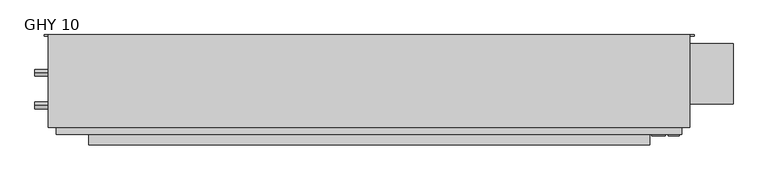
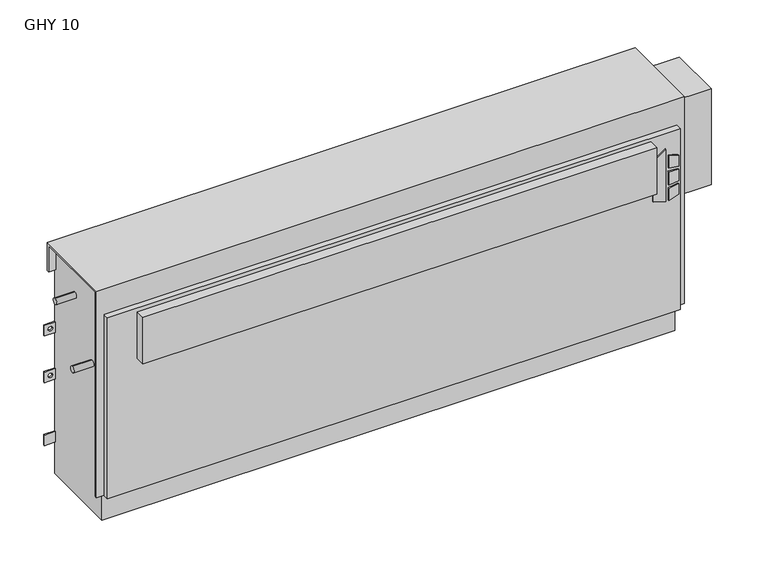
"""IFC4 building model written with IfcOpenShell, lengths in millimetres: proxy geometry, Vertical_Fan_Coil_Unit_-_GHY_-_IEC_-_2-Pipe_FS-FR_LH_2022 : GHY 10."""

import ifcopenshell
import ifcopenshell.guid

model = None  # the IFC model being written
_history = None  # IfcOwnerHistory: only IFC2X3 demands one
_inside = {}  # id of a spatial element -> (the spatial element, [elements in it])
_under = {}  # id of a project, library or spatial element -> (it, [spatial elements below it])
_declared = {}  # id of a project -> (the project, [libraries it declares])
_typed = {}  # id of a type object -> (the type object, [elements of that type])
_made_of = {}  # id of a material, layer set ... -> (it, [elements and type objects made of it])


def new_model(schema):
    """Start an empty IFC model of exactly this schema.

    Asked for "IFC4X3", IfcOpenShell would pick the latest addendum, in which some entities
    have other attributes; the version numbers below select the first issue.
    IFC2X3 requires an IfcOwnerHistory on every rooted entity: one is made here for all.
    """
    global model, _history
    if schema == "IFC4X3":
        model = ifcopenshell.file(schema_version=(4, 3, 0, 0))
    else:
        model = ifcopenshell.file(schema=schema)
    _inside.clear()
    _under.clear()
    _declared.clear()
    _typed.clear()
    _made_of.clear()
    _history = None
    if model.schema == "IFC2X3":
        org = make("IfcOrganization", Name="unknown")
        user = make(
            "IfcPersonAndOrganization",
            ThePerson=make("IfcPerson", FamilyName="unknown"),
            TheOrganization=org,
        )
        app = make(
            "IfcApplication",
            ApplicationDeveloper=org,
            Version="unknown",
            ApplicationFullName="unknown",
            ApplicationIdentifier="unknown",
        )
        _history = make(
            "IfcOwnerHistory",
            OwningUser=user,
            OwningApplication=app,
            ChangeAction="ADDED",
            CreationDate=0,
        )
    return model


def make(cls, **values):
    """One entity of the class cls with the attributes given. An attribute that is None is left unset."""
    return model.create_entity(
        cls, **{name: value for name, value in values.items() if value is not None}
    )


def rooted(cls, **values):
    """An entity with a GlobalId (a new one), such as an element, a storey or a relation."""
    return make(cls, GlobalId=ifcopenshell.guid.new(), OwnerHistory=_history, **values)


def si_unit(unit_type, name, prefix=None):
    """IfcSIUnit, for example si_unit("LENGTHUNIT", "METRE", prefix="MILLI")."""
    return make("IfcSIUnit", UnitType=unit_type, Prefix=prefix, Name=name)


def assignment(units):
    """IfcUnitAssignment: the units of a project."""
    return None if units is None else make("IfcUnitAssignment", Units=units)


def point(xyz):
    """IfcCartesianPoint."""
    return None if xyz is None else make("IfcCartesianPoint", Coordinates=xyz)


def direction(xyz):
    """IfcDirection."""
    return None if xyz is None else make("IfcDirection", DirectionRatios=xyz)


def frame(location, z_axis=None, x_axis=None):
    """IfcAxis2Placement3D, a coordinate frame: its origin and axes. An axis left out is left unset."""
    return make(
        "IfcAxis2Placement3D",
        Location=point(location),
        Axis=direction(z_axis),
        RefDirection=direction(x_axis),
    )


def frame_2d(location, x_axis=None):
    """IfcAxis2Placement2D, a coordinate frame in the plane: its origin and x axis."""
    return make(
        "IfcAxis2Placement2D", Location=point(location), RefDirection=direction(x_axis)
    )


def origin():
    """The frame at (0, 0, 0) with its axes left unset."""
    return frame((0.0, 0.0, 0.0))


def place(relative_to, where):
    """IfcLocalPlacement: puts the frame where relative to a parent placement (None: the world)."""
    return make(
        "IfcLocalPlacement", PlacementRelTo=relative_to, RelativePlacement=where
    )


def context(
    kind, dimensions, precision=None, world=None, true_north=None, identifier=None
):
    """IfcGeometricRepresentationContext, for example the 3D "Model" context."""
    return make(
        "IfcGeometricRepresentationContext",
        ContextIdentifier=identifier,
        ContextType=kind,
        CoordinateSpaceDimension=dimensions,
        Precision=precision,
        WorldCoordinateSystem=world,
        TrueNorth=true_north,
    )


def project(units=None, contexts=None):
    """IfcProject with its units and contexts."""
    return rooted(
        "IfcProject",
        Name="project",
        RepresentationContexts=contexts,
        UnitsInContext=assignment(units),
    )


def spatial(cls, under=None, at=None, **own):
    """A site, building, storey or space (cls), placed at a placement, below another one or the project."""
    s = rooted(cls, ObjectPlacement=at, **own)
    if under is not None:
        _under.setdefault(under.id(), (under, []))[1].append(s)
    return s


def polyline(points):
    """IfcPolyline through the points."""
    return make("IfcPolyline", Points=[point(p) for p in points])


def circle_curve(where, radius):
    """IfcCircle in the frame where."""
    return make("IfcCircle", Position=where, Radius=radius)


def trimmed(basis, trim1, trim2, sense, master):
    """IfcTrimmedCurve: the piece of a basis curve between two trims."""
    return make(
        "IfcTrimmedCurve",
        BasisCurve=basis,
        Trim1=trim1,
        Trim2=trim2,
        SenseAgreement=sense,
        MasterRepresentation=master,
    )


def segment(curve, same_sense, transition):
    """IfcCompositeCurveSegment."""
    return make(
        "IfcCompositeCurveSegment",
        Transition=transition,
        SameSense=same_sense,
        ParentCurve=curve,
    )


def composite_curve(segments, self_intersect=None):
    """IfcCompositeCurve: segments joined end to end."""
    return make("IfcCompositeCurve", Segments=segments, SelfIntersect=self_intersect)


def outline(outer, holes=None, kind="AREA"):
    """IfcArbitraryClosedProfileDef: a profile drawn as a closed curve; with holes, ...WithVoids."""
    if holes is None:
        return make("IfcArbitraryClosedProfileDef", ProfileType=kind, OuterCurve=outer)
    return make(
        "IfcArbitraryProfileDefWithVoids",
        ProfileType=kind,
        OuterCurve=outer,
        InnerCurves=holes,
    )


def extrude(swept, where, along, depth):
    """IfcExtrudedAreaSolid: the profile swept, set in the frame where, extruded along a direction by depth."""
    return make(
        "IfcExtrudedAreaSolid",
        SweptArea=swept,
        Position=where,
        ExtrudedDirection=direction(along),
        Depth=depth,
    )


def shape(context_of_items, identifier, shape_type, items):
    """IfcShapeRepresentation: the items that make up one representation, for example the "Body"."""
    return make(
        "IfcShapeRepresentation",
        ContextOfItems=context_of_items,
        RepresentationIdentifier=identifier,
        RepresentationType=shape_type,
        Items=items,
    )


def source(mapping_origin, context_of_items, identifier, shape_type, items):
    """IfcRepresentationMap: a shape defined once, which mapped items show again and again."""
    return make(
        "IfcRepresentationMap",
        MappingOrigin=mapping_origin,
        MappedRepresentation=shape(context_of_items, identifier, shape_type, items),
    )


def transform(
    local_origin,
    x_axis=None,
    y_axis=None,
    z_axis=None,
    scale=None,
    scale2=None,
    scale3=None,
    uniform=True,
):
    """IfcCartesianTransformationOperator3D, or its non-uniform kind. x_axis, y_axis, z_axis: its Axis1, 2, 3."""
    if uniform:
        return make(
            "IfcCartesianTransformationOperator3D",
            Axis1=direction(x_axis),
            Axis2=direction(y_axis),
            LocalOrigin=point(local_origin),
            Scale=scale,
            Axis3=direction(z_axis),
        )
    return make(
        "IfcCartesianTransformationOperator3DnonUniform",
        Axis1=direction(x_axis),
        Axis2=direction(y_axis),
        LocalOrigin=point(local_origin),
        Scale=scale,
        Axis3=direction(z_axis),
        Scale2=scale2,
        Scale3=scale3,
    )


def mapped(mapping_source, mapping_target):
    """IfcMappedItem: shows the shape of a source again, moved by a transform."""
    return make(
        "IfcMappedItem", MappingSource=mapping_source, MappingTarget=mapping_target
    )


def made_of(thing, what):
    """Note that an element or type object is made of a material, layer set ...; save() writes the relation."""
    if what is not None:
        _made_of.setdefault(what.id(), (what, []))[1].append(thing)
    return thing


def element(
    cls,
    number,
    at=None,
    inside=None,
    cuts=None,
    type_object=None,
    material=None,
    context=None,
    identifier="Body",
    shape_type=None,
    held_by="IfcProductDefinitionShape",
    body=None,
    shapes=None,
    **own,
):
    """One element of the class cls, such as IfcWall. Its Tag is "e" and its number.

    at: its placement. inside: the storey or other place that contains it. cuts: it is an
    opening in that element (IfcRelVoidsElement). A single representation is given by context,
    identifier, shape_type and body (its items); several are given by shapes. held_by: the class
    of the entity that holds the representations. save() writes the other relations.
    """
    e = rooted(cls, Tag="e%d" % number, ObjectPlacement=at, **own)
    if body is not None:
        shapes = [shape(context, identifier, shape_type, body)]
    if shapes is not None:
        e.Representation = make(held_by, Representations=shapes)
    if inside is not None:
        _inside.setdefault(inside.id(), (inside, []))[1].append(e)
    if cuts is not None:
        rooted(
            "IfcRelVoidsElement", RelatingBuildingElement=cuts, RelatedOpeningElement=e
        )
    if type_object is not None:
        _typed.setdefault(type_object.id(), (type_object, []))[1].append(e)
    return made_of(e, material)


def aggregate(whole, parts):
    """IfcRelAggregates: a whole, such as a stair, and the parts it consists of."""
    return rooted("IfcRelAggregates", RelatingObject=whole, RelatedObjects=parts)


def save(model, path):
    """Write the relations noted so far, then the file.

    IfcRelAggregates (storeys below a building ...), IfcRelContainedInSpatialStructure (elements
    in a storey), IfcRelDefinesByType, IfcRelAssociatesMaterial and IfcRelDeclares: one each for
    every whole, place, type object, material and project.
    """
    for whole, parts in _under.values():
        aggregate(whole, parts)
    for where, things in _inside.values():
        rooted(
            "IfcRelContainedInSpatialStructure",
            RelatedElements=things,
            RelatingStructure=where,
        )
    for kind, things in _typed.values():
        rooted("IfcRelDefinesByType", RelatedObjects=things, RelatingType=kind)
    for what, things in _made_of.values():
        rooted("IfcRelAssociatesMaterial", RelatedObjects=things, RelatingMaterial=what)
    for by, libraries in _declared.values():
        rooted("IfcRelDeclares", RelatingContext=by, RelatedDefinitions=libraries)
    model.write(path)


def plane_surface(at):
    """IfcPlane: the flat surface through the origin of the frame at, square to its z axis."""
    return make("IfcPlane", Position=at)


def revolved_surface(curve, axis_point, axis_direction):
    """IfcSurfaceOfRevolution: the curve turned about the line through axis_point along axis_direction."""
    return make(
        "IfcSurfaceOfRevolution",
        SweptCurve=make("IfcArbitraryOpenProfileDef", ProfileType="CURVE", Curve=curve),
        AxisPosition=make("IfcAxis1Placement", Location=point(axis_point), Axis=direction(axis_direction)),
    )


def advanced_brep(points, edges, surfaces, faces):
    """IfcAdvancedBrep: a solid bounded by faces that lie on surfaces and meet in shared edges.

    An edge is (start, end): straight between two places in points (the first is 0);
    or (start, end, curve); or (start, end, curve, False) where it runs against its curve.
    A face is (place in surfaces, loops), or (place, loops, False) where it looks against
    its surface's normal. A loop lists edges by number (the first is 1), with a minus sign
    where the edge is run from its end to its start. The first loop is the outer one.
    """
    corners = [point(p) for p in points]
    vertices = [make("IfcVertexPoint", VertexGeometry=c) for c in corners]
    made = []
    for start, end, *more in edges:
        made.append(
            make(
                "IfcEdgeCurve",
                EdgeStart=vertices[start],
                EdgeEnd=vertices[end],
                EdgeGeometry=more[0] if more else make("IfcPolyline", Points=[corners[start], corners[end]]),
                SameSense=more[1] if len(more) > 1 else True,
            )
        )
    hull = []
    for where, loops, *sense in faces:
        bounds = []
        for j, loop in enumerate(loops):
            ring = [make("IfcOrientedEdge", EdgeElement=made[abs(k) - 1], Orientation=k > 0) for k in loop]
            bounds.append(
                make(
                    "IfcFaceOuterBound" if j == 0 else "IfcFaceBound",
                    Bound=make("IfcEdgeLoop", EdgeList=ring),
                    Orientation=True,
                )
            )
        hull.append(make("IfcAdvancedFace", Bounds=bounds, FaceSurface=surfaces[where], SameSense=sense[0] if sense else True))
    return make("IfcAdvancedBrep", Outer=make("IfcClosedShell", CfsFaces=hull))


def ghy_10_f1c1fad6(model_context):
    return source(origin(), model_context, "Body", "SolidModel", [
        extrude(outline(polyline([(391.6086829, 817.6368862), (381.6606126, 849.8102728), (523.831537, 849.8102728), (500.8095309, 817.6368862), (391.6086829, 817.6368862)])), frame((0.0, 6.35, 0.0), z_axis=(0.0, 1.0, 0.0), x_axis=(0.0, 0.0, 1.0)), (0.0, 0.0, 1.0), 3.175),
        extrude(outline(polyline([(470.6079683, 856.5686058), (467.4055757, 882.65), (496.6344168, 882.65), (504.6988318, 856.5686058), (470.6079683, 856.5686058)])), frame((0.0, 6.35, 0.0), z_axis=(0.0, 1.0, 0.0), x_axis=(0.0, 0.0, 1.0)), (0.0, 0.0, 1.0), 3.175),
        extrude(outline(polyline([(418.7444414, 882.65), (415.0789404, 856.5686058), (381.6606126, 856.5686058), (390.2948498, 882.65), (418.7444414, 882.65)])), frame((0.0, 6.35, 0.0), z_axis=(0.0, 1.0, 0.0), x_axis=(0.0, 0.0, 1.0)), (0.0, 0.0, 1.0), 3.175),
        extrude(outline(polyline([(458.0596028, 882.65), (460.3414292, 856.5686058), (424.4038806, 856.5686058), (427.1451456, 882.65), (458.0596028, 882.65)])), frame((0.0, 6.35, 0.0), z_axis=(0.0, 1.0, 0.0), x_axis=(0.0, 0.0, 1.0)), (0.0, 0.0, 1.0), 3.175),
        extrude(outline(polyline([(812.8, -15.875), (-508.0, -15.875), (-508.0, 9.525), (812.8, 9.525), (812.8, -15.875)])), frame((0.0, 0.0, 428.625), z_axis=(0.0, 0.0, 1.0), x_axis=(1.0, 0.0, 0.0)), (0.0, 0.0, 1.0), 127.0),
        extrude(outline(composite_curve([segment(trimmed(circle_curve(frame_2d((77.597, 401.574)), 7.9375), [point((77.597, 409.5115))], [point((77.597, 393.6365))], False, "CARTESIAN"), True, "CONTINUOUS"), segment(trimmed(circle_curve(frame_2d((77.597, 401.574)), 7.9375), [point((77.597, 393.6365))], [point((77.597, 409.5115))], False, "CARTESIAN"), True, "CONTINUOUS")], self_intersect=False)), frame((-635.0, 0.0, 0.0), z_axis=(1.0, 0.0, 0.0), x_axis=(0.0, 1.0, 0.0)), (0.0, 0.0, 1.0), 50.8),
        extrude(outline(composite_curve([segment(trimmed(circle_curve(frame_2d((154.559, 540.512)), 7.9375), [point((154.559, 548.4495))], [point((154.559, 532.5745))], False, "CARTESIAN"), True, "CONTINUOUS"), segment(trimmed(circle_curve(frame_2d((154.559, 540.512)), 7.9375), [point((154.559, 532.5745))], [point((154.559, 548.4495))], False, "CARTESIAN"), True, "CONTINUOUS")], self_intersect=False)), frame((-635.0, 0.0, 0.0), z_axis=(1.0, 0.0, 0.0), x_axis=(0.0, 1.0, 0.0)), (0.0, 0.0, 1.0), 50.8),
        extrude(outline(polyline([(1009.65, 223.266), (1009.65, 81.534), (889.0, 81.534), (889.0, 223.266), (1009.65, 223.266)])), frame((0.0, 0.0, 327.025), z_axis=(0.0, 0.0, 1.0), x_axis=(1.0, 0.0, 0.0)), (0.0, 0.0, 1.0), 260.35),
        advanced_brep(
        [(908.05, 244.475, 635.0), (-603.25, 244.475, 635.0), (-603.25, 25.4, 635.0), (908.05, 25.4, 635.0), (-584.2, 244.475, 0.0), (889.0, 244.475, 0.0), (889.0, 34.925, 0.0), (-584.2, 34.925, 0.0), (908.05, 244.475, 558.8), (889.0, 244.475, 558.8), (889.0, 244.475, 414.3375), (917.575, 244.475, 414.3375), (917.575, 244.475, 385.7625), (889.0, 244.475, 385.7625), (889.0, 244.475, 287.3375), (917.575, 244.475, 287.3375), (917.575, 244.475, 258.7625), (889.0, 244.475, 258.7625), (889.0, 244.475, 141.2875), (917.575, 244.475, 141.2875), (917.575, 244.475, 112.7125), (889.0, 244.475, 112.7125), (-584.2, 244.475, 87.3125), (-612.775, 244.475, 87.3125), (-612.775, 244.475, 115.8875), (-584.2, 244.475, 115.8875), (-584.2, 244.475, 258.7625), (-612.775, 244.475, 258.7625), (-612.775, 244.475, 287.3375), (-584.2, 244.475, 287.3375), (-584.2, 244.475, 385.7625), (-612.775, 244.475, 385.7625), (-612.775, 244.475, 414.3375), (-584.2, 244.475, 414.3375), (-584.2, 244.475, 558.8), (-603.25, 244.475, 558.8), (907.2626, 244.475, 127.0), (896.1374, 244.475, 127.0), (907.2626, 244.475, 273.05), (896.1374, 244.475, 273.05), (-591.3374, 244.475, 273.05), (-602.4626, 244.475, 273.05), (907.2626, 244.475, 400.05), (896.1374, 244.475, 400.05), (-591.3374, 244.475, 400.05), (-602.4626, 244.475, 400.05), (-603.25, 238.125, 558.8), (-603.25, 238.125, 628.65), (-603.25, 31.75, 628.65), (-603.25, 31.75, 73.025), (-603.25, 25.4, 73.025), (889.0, 9.525, 565.15), (-584.2, 9.525, 565.15), (-584.2, 9.525, 73.025), (889.0, 9.525, 73.025), (908.05, 25.4, 73.025), (908.05, 31.75, 73.025), (908.05, 31.75, 628.65), (908.05, 238.125, 628.65), (908.05, 238.125, 558.8), (-584.2, 25.4, 73.025), (-584.2, 25.4, 565.15), (889.0, 25.4, 565.15), (889.0, 25.4, 73.025), (-584.2, 31.75, 73.025), (-584.2, 34.925, 73.025), (889.0, 34.925, 73.025), (889.0, 31.75, 73.025), (889.0, 241.3, 112.7125), (889.0, 241.3, 141.2875), (889.0, 241.3, 258.7625), (889.0, 241.3, 287.3375), (889.0, 241.3, 385.7625), (889.0, 241.3, 414.3375), (889.0, 238.125, 558.8), (889.0, 238.125, 628.65), (889.0, 31.75, 628.65), (-584.2, 31.75, 628.65), (-584.2, 238.125, 628.65), (-584.2, 238.125, 558.8), (-584.2, 241.3, 414.3375), (-584.2, 241.3, 385.7625), (-584.2, 241.3, 287.3375), (-584.2, 241.3, 258.7625), (-584.2, 241.3, 115.8875), (-584.2, 241.3, 87.3125), (917.575, 241.3, 112.7125), (917.575, 241.3, 141.2875), (896.1374, 241.3, 127.0), (907.2626, 241.3, 127.0), (917.575, 241.3, 258.7625), (917.575, 241.3, 287.3375), (896.1374, 241.3, 273.05), (907.2626, 241.3, 273.05), (917.575, 241.3, 385.7625), (917.575, 241.3, 414.3375), (896.1374, 241.3, 400.05), (907.2626, 241.3, 400.05), (-612.775, 241.3, 115.8875), (-612.775, 241.3, 87.3125), (-612.775, 241.3, 287.3375), (-612.775, 241.3, 258.7625), (-602.4626, 241.3, 273.05), (-591.3374, 241.3, 273.05), (-612.775, 241.3, 414.3375), (-612.775, 241.3, 385.7625), (-602.4626, 241.3, 400.05), (-591.3374, 241.3, 400.05)],
        [
            (0, 1),
            (1, 2),
            (2, 3),
            (3, 0),
            (4, 5),
            (5, 6),
            (6, 7),
            (7, 4),
            (0, 8),
            (8, 9),
            (9, 10),
            (10, 11),
            (11, 12),
            (12, 13),
            (13, 14),
            (14, 15),
            (15, 16),
            (16, 17),
            (17, 18),
            (18, 19),
            (19, 20),
            (20, 21),
            (21, 5),
            (4, 22),
            (22, 23),
            (23, 24),
            (24, 25),
            (25, 26),
            (26, 27),
            (27, 28),
            (28, 29),
            (29, 30),
            (30, 31),
            (31, 32),
            (32, 33),
            (33, 34),
            (34, 35),
            (35, 1),
            (36, 37, circle_curve(frame((901.7, 244.475, 127.0), z_axis=(0.0, -1.0, 0.0), x_axis=(-1.0, 0.0, 0.0)), 5.5626)),
            (37, 36, circle_curve(frame((901.7, 244.475, 127.0), z_axis=(0.0, -1.0, 0.0), x_axis=(-1.0, 0.0, 0.0)), 5.5626)),
            (38, 39, circle_curve(frame((901.7, 244.475, 273.05), z_axis=(0.0, -1.0, 0.0), x_axis=(-1.0, 0.0, 0.0)), 5.5626)),
            (39, 38, circle_curve(frame((901.7, 244.475, 273.05), z_axis=(0.0, -1.0, 0.0), x_axis=(-1.0, 0.0, 0.0)), 5.5626)),
            (40, 41, circle_curve(frame((-596.9, 244.475, 273.05), z_axis=(0.0, -1.0, 0.0), x_axis=(-1.0, 0.0, 0.0)), 5.5626)),
            (41, 40, circle_curve(frame((-596.9, 244.475, 273.05), z_axis=(0.0, -1.0, 0.0), x_axis=(-1.0, 0.0, 0.0)), 5.5626)),
            (42, 43, circle_curve(frame((901.7, 244.475, 400.05), z_axis=(0.0, -1.0, 0.0), x_axis=(-1.0, 0.0, 0.0)), 5.5626)),
            (43, 42, circle_curve(frame((901.7, 244.475, 400.05), z_axis=(0.0, -1.0, 0.0), x_axis=(-1.0, 0.0, 0.0)), 5.5626)),
            (44, 45, circle_curve(frame((-596.9, 244.475, 400.05), z_axis=(0.0, -1.0, 0.0), x_axis=(-1.0, 0.0, 0.0)), 5.5626)),
            (45, 44, circle_curve(frame((-596.9, 244.475, 400.05), z_axis=(0.0, -1.0, 0.0), x_axis=(-1.0, 0.0, 0.0)), 5.5626)),
            (35, 46),
            (46, 47),
            (47, 48),
            (48, 49),
            (49, 50),
            (50, 2),
            (51, 52),
            (52, 53),
            (53, 54),
            (54, 51),
            (3, 55),
            (55, 56),
            (56, 57),
            (57, 58),
            (58, 59),
            (59, 8),
            (50, 60),
            (60, 61),
            (61, 62),
            (62, 63),
            (63, 55),
            (51, 62),
            (61, 52),
            (53, 60),
            (49, 64),
            (64, 65),
            (65, 66),
            (66, 67),
            (67, 56),
            (63, 54),
            (6, 66),
            (65, 7),
            (21, 68),
            (68, 69),
            (69, 18),
            (17, 70),
            (70, 71),
            (71, 14),
            (13, 72),
            (72, 73),
            (73, 10),
            (9, 74),
            (74, 75),
            (75, 76),
            (76, 67),
            (64, 77),
            (77, 78),
            (78, 79),
            (79, 34),
            (33, 80),
            (80, 81),
            (81, 30),
            (29, 82),
            (82, 83),
            (83, 26),
            (25, 84),
            (84, 85),
            (85, 22),
            (74, 59),
            (58, 75),
            (76, 57),
            (48, 77),
            (79, 46),
            (78, 47),
            (68, 86),
            (86, 87),
            (87, 69),
            (88, 89, circle_curve(frame((901.7, 241.3, 127.0), z_axis=(0.0, 1.0, 0.0), x_axis=(-1.0, 0.0, 0.0)), 5.5626)),
            (89, 88, circle_curve(frame((901.7, 241.3, 127.0), z_axis=(0.0, 1.0, 0.0), x_axis=(-1.0, 0.0, 0.0)), 5.5626)),
            (90, 91),
            (91, 71),
            (70, 90),
            (92, 93, circle_curve(frame((901.7, 241.3, 273.05), z_axis=(0.0, 1.0, 0.0), x_axis=(-1.0, 0.0, 0.0)), 5.5626)),
            (93, 92, circle_curve(frame((901.7, 241.3, 273.05), z_axis=(0.0, 1.0, 0.0), x_axis=(-1.0, 0.0, 0.0)), 5.5626)),
            (94, 95),
            (95, 73),
            (72, 94),
            (96, 97, circle_curve(frame((901.7, 241.3, 400.05), z_axis=(0.0, 1.0, 0.0), x_axis=(-1.0, 0.0, 0.0)), 5.5626)),
            (97, 96, circle_curve(frame((901.7, 241.3, 400.05), z_axis=(0.0, 1.0, 0.0), x_axis=(-1.0, 0.0, 0.0)), 5.5626)),
            (98, 99),
            (99, 85),
            (84, 98),
            (82, 100),
            (100, 101),
            (101, 83),
            (102, 103, circle_curve(frame((-596.9, 241.3, 273.05), z_axis=(0.0, 1.0, 0.0), x_axis=(-1.0, 0.0, 0.0)), 5.5626)),
            (103, 102, circle_curve(frame((-596.9, 241.3, 273.05), z_axis=(0.0, 1.0, 0.0), x_axis=(-1.0, 0.0, 0.0)), 5.5626)),
            (104, 105),
            (105, 81),
            (80, 104),
            (106, 107, circle_curve(frame((-596.9, 241.3, 400.05), z_axis=(0.0, 1.0, 0.0), x_axis=(-1.0, 0.0, 0.0)), 5.5626)),
            (107, 106, circle_curve(frame((-596.9, 241.3, 400.05), z_axis=(0.0, 1.0, 0.0), x_axis=(-1.0, 0.0, 0.0)), 5.5626)),
            (87, 19),
            (86, 20),
            (16, 90),
            (91, 15),
            (12, 94),
            (95, 11),
            (24, 98),
            (99, 23),
            (101, 27),
            (100, 28),
            (32, 104),
            (105, 31),
            (88, 37),
            (36, 89),
            (92, 39),
            (38, 93),
            (102, 41),
            (40, 103),
            (96, 43),
            (42, 97),
            (106, 45),
            (44, 107),
        ],
        [
            plane_surface(frame((-603.25, 244.475, 635.0), z_axis=(0.0, 0.0, 1.0), x_axis=(-1.0, 0.0, 0.0))),
            plane_surface(frame((-603.25, 244.475, 0.0), z_axis=(0.0, 0.0, -1.0), x_axis=(1.0, 0.0, 0.0))),
            plane_surface(frame((908.05, 244.475, 635.0), z_axis=(0.0, 1.0, 0.0), x_axis=(0.0, 0.0, -1.0))),
            plane_surface(frame((-603.25, 244.475, 635.0), z_axis=(-1.0, 0.0, 0.0), x_axis=(0.0, 0.0, -1.0))),
            plane_surface(frame((-603.25, 9.525, 635.0), z_axis=(0.0, -1.0, 0.0), x_axis=(0.0, 0.0, -1.0))),
            plane_surface(frame((908.05, 9.525, 635.0), z_axis=(1.0, 0.0, 0.0), x_axis=(0.0, 0.0, -1.0))),
            plane_surface(frame((-1060.45, 25.4, 635.0), z_axis=(0.0, -1.0, 0.0), x_axis=(1.0, 0.0, 0.0))),
            plane_surface(frame((-1060.45, 25.4, 565.15), z_axis=(0.0, 0.0, 1.0), x_axis=(1.0, 0.0, 0.0))),
            plane_surface(frame((-603.25, 9.525, 73.025), z_axis=(0.0, 0.0, -1.0), x_axis=(1.0, 0.0, 0.0))),
            plane_surface(frame((-603.25, 34.925, 73.025), z_axis=(0.0, -1.0, 0.0), x_axis=(1.0, 0.0, 0.0))),
            plane_surface(frame((889.0, 25.4, 73.025), z_axis=(1.0, 0.0, 0.0), x_axis=(0.0, -1.0, 0.0))),
            plane_surface(frame((-584.2, 25.4, 565.15), z_axis=(-1.0, 0.0, 0.0), x_axis=(0.0, -1.0, 0.0))),
            plane_surface(frame((889.0, 244.475, 0.0), z_axis=(1.0, 0.0, 0.0), x_axis=(0.0, -1.0, 0.0))),
            plane_surface(frame((-584.2, 244.475, 73.025), z_axis=(-1.0, 0.0, 0.0), x_axis=(0.0, -1.0, 0.0))),
            plane_surface(frame((889.0, 238.125, 628.65), z_axis=(0.0, -1.0, 0.0), x_axis=(1.0, 0.0, 0.0))),
            plane_surface(frame((889.0, 238.125, 558.8), z_axis=(0.0, 0.0, -1.0), x_axis=(1.0, 0.0, 0.0))),
            plane_surface(frame((889.0, 31.75, 73.025), z_axis=(0.0, 1.0, 0.0), x_axis=(1.0, 0.0, 0.0))),
            plane_surface(frame((889.0, 31.75, 628.65), z_axis=(0.0, 0.0, -1.0), x_axis=(1.0, 0.0, 0.0))),
            plane_surface(frame((-584.2, 31.75, 628.65), z_axis=(0.0, 1.0, 0.0), x_axis=(-1.0, 0.0, 0.0))),
            plane_surface(frame((-584.2, 244.475, 558.8), z_axis=(0.0, 0.0, -1.0), x_axis=(-1.0, 0.0, 0.0))),
            plane_surface(frame((-584.2, 238.125, 558.8), z_axis=(0.0, -1.0, 0.0), x_axis=(-1.0, 0.0, 0.0))),
            plane_surface(frame((-584.2, 238.125, 628.65), z_axis=(0.0, 0.0, -1.0), x_axis=(-1.0, 0.0, 0.0))),
            plane_surface(frame((917.575, 241.3, 141.2875), z_axis=(0.0, -1.0, 0.0), x_axis=(-1.0, 0.0, 0.0))),
            plane_surface(frame((889.0, 244.475, 141.2875), z_axis=(0.0, 0.0, 1.0), x_axis=(0.0, -1.0, 0.0))),
            plane_surface(frame((917.575, 244.475, 141.2875), z_axis=(1.0, 0.0, 0.0), x_axis=(0.0, -1.0, 0.0))),
            plane_surface(frame((917.575, 244.475, 112.7125), z_axis=(0.0, 0.0, -1.0), x_axis=(0.0, -1.0, 0.0))),
            plane_surface(frame((917.575, 244.475, 258.7625), z_axis=(0.0, 0.0, -1.0), x_axis=(0.0, -1.0, 0.0))),
            plane_surface(frame((889.0, 244.475, 287.3375), z_axis=(0.0, 0.0, 1.0), x_axis=(0.0, -1.0, 0.0))),
            plane_surface(frame((917.575, 244.475, 287.3375), z_axis=(1.0, 0.0, 0.0), x_axis=(0.0, -1.0, 0.0))),
            plane_surface(frame((917.575, 244.475, 385.7625), z_axis=(0.0, 0.0, -1.0), x_axis=(0.0, -1.0, 0.0))),
            plane_surface(frame((889.0, 244.475, 414.3375), z_axis=(0.0, 0.0, 1.0), x_axis=(0.0, -1.0, 0.0))),
            plane_surface(frame((917.575, 244.475, 414.3375), z_axis=(1.0, 0.0, 0.0), x_axis=(0.0, -1.0, 0.0))),
            plane_surface(frame((-612.775, 244.475, 115.8875), z_axis=(0.0, 0.0, 1.0), x_axis=(0.0, -1.0, 0.0))),
            plane_surface(frame((-584.2, 244.475, 87.3125), z_axis=(0.0, 0.0, -1.0), x_axis=(0.0, -1.0, 0.0))),
            plane_surface(frame((-612.775, 244.475, 87.3125), z_axis=(-1.0, 0.0, 0.0), x_axis=(0.0, -1.0, 0.0))),
            plane_surface(frame((-584.2, 244.475, 258.7625), z_axis=(0.0, 0.0, -1.0), x_axis=(0.0, -1.0, 0.0))),
            plane_surface(frame((-612.775, 244.475, 258.7625), z_axis=(-1.0, 0.0, 0.0), x_axis=(0.0, -1.0, 0.0))),
            plane_surface(frame((-612.775, 244.475, 287.3375), z_axis=(0.0, 0.0, 1.0), x_axis=(0.0, -1.0, 0.0))),
            plane_surface(frame((-612.775, 244.475, 414.3375), z_axis=(0.0, 0.0, 1.0), x_axis=(0.0, -1.0, 0.0))),
            plane_surface(frame((-584.2, 244.475, 385.7625), z_axis=(0.0, 0.0, -1.0), x_axis=(0.0, -1.0, 0.0))),
            plane_surface(frame((-612.775, 244.475, 385.7625), z_axis=(-1.0, 0.0, 0.0), x_axis=(0.0, -1.0, 0.0))),
            revolved_surface(polyline([(896.1374000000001, 241.3, 127.0), (896.1374000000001, 244.475, 127.0)]), (901.7, 244.475, 127.0), (0.0, -1.0, 0.0)),
            revolved_surface(polyline([(896.1374000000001, 241.3, 273.05), (896.1374000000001, 244.475, 273.05)]), (901.7, 244.475, 273.05), (0.0, -1.0, 0.0)),
            revolved_surface(polyline([(-602.4626, 241.3, 273.05), (-602.4626, 244.475, 273.05)]), (-596.9, 244.475, 273.05), (0.0, -1.0, 0.0)),
            revolved_surface(polyline([(896.1374000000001, 241.3, 400.05), (896.1374000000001, 244.475, 400.05)]), (901.7, 244.475, 400.05), (0.0, -1.0, 0.0)),
            revolved_surface(polyline([(-602.4626, 241.3, 400.05), (-602.4626, 244.475, 400.05)]), (-596.9, 244.475, 400.05), (0.0, -1.0, 0.0)),
        ],
        [
            (0, [[1, 2, 3, 4]]),
            (1, [[5, 6, 7, 8]]),
            (2, [[-1, 9, 10, 11, 12, 13, 14, 15, 16, 17, 18, 19, 20, 21, 22, 23, -5, 24, 25, 26, 27, 28, 29, 30, 31, 32, 33, 34, 35, 36, 37, 38], [39, 40], [41, 42], [43, 44], [45, 46], [47, 48]]),
            (3, [[-2, -38, 49, 50, 51, 52, 53, 54]]),
            (4, [[55, 56, 57, 58]]),
            (5, [[-4, 59, 60, 61, 62, 63, 64, -9]]),
            (6, [[-3, -54, 65, 66, 67, 68, 69, -59]]),
            (7, [[-55, 70, -67, 71]]),
            (8, [[-57, 72, -65, -53, 73, 74, 75, 76, 77, -60, -69, 78]]),
            (9, [[-7, 79, -75, 80]]),
            (10, [[-68, -70, -58, -78]]),
            (11, [[-66, -72, -56, -71]]),
            (12, [[-6, -23, 81, 82, 83, -19, 84, 85, 86, -15, 87, 88, 89, -11, 90, 91, 92, 93, -76, -79]]),
            (13, [[-8, -80, -74, 94, 95, 96, 97, -36, 98, 99, 100, -32, 101, 102, 103, -28, 104, 105, 106, -24]]),
            (14, [[-91, 107, -63, 108]]),
            (15, [[-90, -10, -64, -107]]),
            (16, [[-93, 109, -61, -77]]),
            (17, [[-92, -108, -62, -109]]),
            (18, [[-94, -73, -52, 110]]),
            (19, [[-97, 111, -49, -37]]),
            (20, [[-96, 112, -50, -111]]),
            (21, [[-95, -110, -51, -112]]),
            (22, [[113, 114, 115, -82], [116, 117]]),
            (22, [[118, 119, -85, 120], [121, 122]]),
            (22, [[123, 124, -88, 125], [126, 127]]),
            (22, [[128, 129, -105, 130]]),
            (22, [[131, 132, 133, -102], [134, 135]]),
            (22, [[136, 137, -99, 138], [139, 140]]),
            (23, [[-115, 141, -20, -83]]),
            (24, [[-114, 142, -21, -141]]),
            (25, [[-113, -81, -22, -142]]),
            (26, [[-120, -84, -18, 143]]),
            (27, [[-119, 144, -16, -86]]),
            (28, [[-118, -143, -17, -144]]),
            (29, [[-125, -87, -14, 145]]),
            (30, [[-124, 146, -12, -89]]),
            (31, [[-123, -145, -13, -146]]),
            (32, [[-130, -104, -27, 147]]),
            (33, [[-129, 148, -25, -106]]),
            (34, [[-128, -147, -26, -148]]),
            (35, [[-133, 149, -29, -103]]),
            (36, [[-132, 150, -30, -149]]),
            (37, [[-131, -101, -31, -150]]),
            (38, [[-138, -98, -35, 151]]),
            (39, [[-137, 152, -33, -100]]),
            (40, [[-136, -151, -34, -152]]),
            (41, [[153, -39, 154, -116]]),
            (41, [[-153, -117, -154, -40]]),
            (42, [[155, -41, 156, -121]]),
            (42, [[-155, -122, -156, -42]]),
            (43, [[157, -43, 158, -134]]),
            (43, [[-157, -135, -158, -44]]),
            (44, [[159, -45, 160, -126]]),
            (44, [[-159, -127, -160, -46]]),
            (45, [[161, -47, 162, -139]]),
            (45, [[-161, -140, -162, -48]]),
        ],
    ),
    ])


if __name__ == "__main__":
    model = new_model("IFC4")
    model_context = context("Model", 3, world=origin())
    ifc_project = project(units=[si_unit("LENGTHUNIT", "METRE", prefix="MILLI")], contexts=[model_context])
    site = spatial("IfcSite", under=ifc_project)
    building = spatial("IfcBuilding", under=site)
    placement = place(None, origin())
    ghy_10_shape = ghy_10_f1c1fad6(model_context)
    element("IfcBuildingElementProxy", 1, Name="Vertical_Fan_Coil_Unit_-_GHY_-_IEC_-_2-Pipe_FS-FR_LH_2022 : GHY 10", ObjectType="Vertical_Fan_Coil_Unit_-_GHY_-_IEC_-_2-Pipe_FS-FR_LH_2022 : GHY 10", at=placement, inside=building, context=model_context, shape_type="MappedRepresentation", body=[
        mapped(ghy_10_shape, transform((0.0, 0.0, 0.0), x_axis=(1.0, 0.0, 0.0), y_axis=(0.0, 1.0, 0.0), z_axis=(0.0, 0.0, 1.0))),
    ])
    save(model, "model.ifc")
